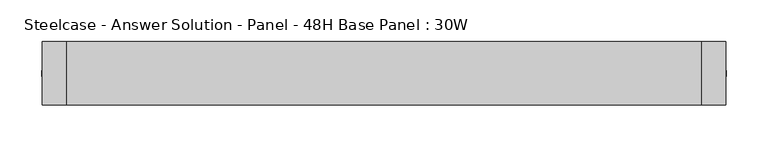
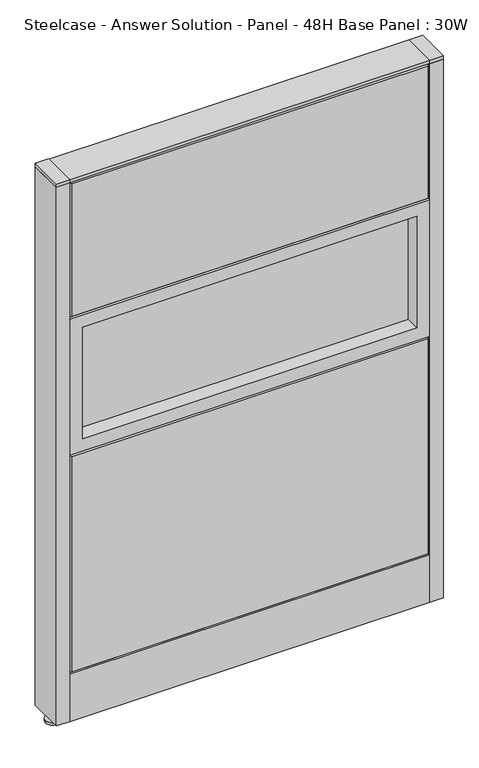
"""IFC4 building model written with IfcOpenShell, lengths in millimetres: furniture geometry, Steelcase - Answer Solution - Panel - 48H Base Panel : 30W."""

from ifc_helpers import new_model, si_unit, point, frame, frame_2d, origin, place, context, project, spatial, polyline, circle_curve, trimmed, segment, composite_curve, outline, extrude, faceted_brep, source, transform, mapped, element, save


def steelcase_answer_solution_panel_48h_base_panel_30w_dd1724f2(model_context):
    return source(origin(), model_context, "Body", "SolidModel", [
        extrude(outline(composite_curve([segment(trimmed(circle_curve(frame_2d((395.224, 0.0320214)), 5.08), [point((400.304, 0.0320214))], [point((390.144, 0.0320214))], False, "CARTESIAN"), True, "CONTINUOUS"), segment(trimmed(circle_curve(frame_2d((395.224, 0.0320214)), 5.08), [point((390.144, 0.0320214))], [point((400.304, 0.0320214))], False, "CARTESIAN"), True, "CONTINUOUS")], self_intersect=False)), frame((0.0, 0.0, 5.0799671), z_axis=(0.0, 0.0, 1.0), x_axis=(1.0, 0.0, 0.0)), (0.0, 0.0, 1.0), 10.414),
        extrude(outline(composite_curve([segment(trimmed(circle_curve(frame_2d((395.224, 0.0320214)), 15.24), [point((410.464, 0.0320214))], [point((379.984, 0.0320214))], False, "CARTESIAN"), True, "CONTINUOUS"), segment(trimmed(circle_curve(frame_2d((395.224, 0.0320214)), 15.24), [point((379.984, 0.0320214))], [point((410.464, 0.0320214))], False, "CARTESIAN"), True, "CONTINUOUS")], self_intersect=False)), frame((0.0, 0.0, -3.29e-05), z_axis=(0.0, 0.0, 1.0), x_axis=(1.0, 0.0, 0.0)), (0.0, 0.0, 1.0), 5.08),
        extrude(outline(polyline([(409.575, 38.1320408), (409.575, -38.0679592), (381.0, -38.0679592), (381.0, 38.1320408), (409.575, 38.1320408)])), frame((0.0, 0.0, 1218.2348), z_axis=(0.0, 0.0, 1.0), x_axis=(1.0, 0.0, 0.0)), (0.0, 0.0, 1.0), 7.3151671),
        extrude(outline(polyline([(409.575, 38.1320408), (409.575, -38.0679592), (381.0, -38.0679592), (381.0, 38.1320408), (409.575, 38.1320408)])), frame((0.0, 0.0, 15.4939671), z_axis=(0.0, 0.0, 1.0), x_axis=(1.0, 0.0, 0.0)), (0.0, 0.0, 1.0), 1202.7408329),
        extrude(outline(composite_curve([segment(trimmed(circle_curve(frame_2d((-395.224, 0.0320214)), 5.08), [point((-400.304, 0.0320214))], [point((-390.144, 0.0320214))], False, "CARTESIAN"), True, "CONTINUOUS"), segment(trimmed(circle_curve(frame_2d((-395.224, 0.0320214)), 5.08), [point((-390.144, 0.0320214))], [point((-400.304, 0.0320214))], False, "CARTESIAN"), True, "CONTINUOUS")], self_intersect=False)), frame((0.0, 0.0, 5.0799671), z_axis=(0.0, 0.0, 1.0), x_axis=(1.0, 0.0, 0.0)), (0.0, 0.0, 1.0), 10.414),
        extrude(outline(composite_curve([segment(trimmed(circle_curve(frame_2d((-395.224, 0.0320214)), 15.24), [point((-410.464, 0.0320214))], [point((-379.984, 0.0320214))], False, "CARTESIAN"), True, "CONTINUOUS"), segment(trimmed(circle_curve(frame_2d((-395.224, 0.0320214)), 15.24), [point((-379.984, 0.0320214))], [point((-410.464, 0.0320214))], False, "CARTESIAN"), True, "CONTINUOUS")], self_intersect=False)), frame((0.0, 0.0, -3.29e-05), z_axis=(0.0, 0.0, 1.0), x_axis=(1.0, 0.0, 0.0)), (0.0, 0.0, 1.0), 5.08),
        extrude(outline(polyline([(-409.575, 38.1320408), (-381.0, 38.1320408), (-381.0, -38.0679592), (-409.575, -38.0679592), (-409.575, 38.1320408)])), frame((0.0, 0.0, 1218.2348), z_axis=(0.0, 0.0, 1.0), x_axis=(1.0, 0.0, 0.0)), (0.0, 0.0, 1.0), 7.3151671),
        extrude(outline(polyline([(-409.575, 38.1320408), (-381.0, 38.1320408), (-381.0, -38.0679592), (-409.575, -38.0679592), (-409.575, 38.1320408)])), frame((0.0, 0.0, 15.4939671), z_axis=(0.0, 0.0, 1.0), x_axis=(1.0, 0.0, 0.0)), (0.0, 0.0, 1.0), 1202.7408329),
        extrude(outline(polyline([(-353.06, 6.346049), (353.06, 6.346049), (353.06, -6.353951), (-353.06, -6.353951), (-353.06, 6.346049)])), frame((0.0, 0.0, 637.54), z_axis=(0.0, 0.0, 1.0), x_axis=(1.0, 0.0, 0.0)), (0.0, 0.0, 1.0), 248.92),
        extrude(outline(polyline([(914.4, -381.0), (609.6, -381.0), (609.6, 381.0), (914.4, 381.0), (914.4, -381.0)]), holes=[polyline([(886.46, -353.06), (886.46, 353.06), (637.54, 353.06), (637.54, -353.06), (886.46, -353.06)])]), frame((0.0, -38.103951, 0.0), z_axis=(0.0, 1.0, 0.0), x_axis=(0.0, 0.0, 1.0)), (0.0, 0.0, 1.0), 76.2),
        faceted_brep([(-376.174, 38.1635011, 1214.374), (376.174, 38.1635011, 1214.374), (376.174, 38.1635011, 919.226), (-376.174, 38.1635011, 919.226), (-381.0, 33.3375011, 1219.2), (-381.0, 33.3375011, 914.4), (381.0, 33.3375011, 914.4), (381.0, 33.3375011, 1219.2)], [[[0, 1, 2, 3]], [[4, 5, 6, 7]], [[4, 7, 1, 0]], [[7, 6, 2, 1]], [[6, 5, 3, 2]], [[5, 4, 0, 3]]]),
        faceted_brep([(-376.174, 38.1635011, 604.774), (376.174, 38.1635011, 604.774), (376.174, 38.1635011, 125.476), (-376.174, 38.1635011, 125.476), (-381.0, 33.3375011, 609.6), (-381.0, 33.3375011, 120.65), (381.0, 33.3375011, 120.65), (381.0, 33.3375011, 609.6)], [[[0, 1, 2, 3]], [[4, 5, 6, 7]], [[4, 7, 1, 0]], [[7, 6, 2, 1]], [[6, 5, 3, 2]], [[5, 4, 0, 3]]]),
        extrude(outline(polyline([(353.06, -6.346049), (-353.06, -6.346049), (-353.06, 6.353951), (353.06, 6.353951), (353.06, -6.346049)])), frame((0.0, 0.0, 637.54), z_axis=(0.0, 0.0, 1.0), x_axis=(1.0, 0.0, 0.0)), (0.0, 0.0, 1.0), 248.92),
        extrude(outline(polyline([(914.4, 381.0), (914.4, -381.0), (609.6, -381.0), (609.6, 381.0), (914.4, 381.0)]), holes=[polyline([(886.46, 353.06), (637.54, 353.06), (637.54, -353.06), (886.46, -353.06), (886.46, 353.06)])]), frame((0.0, -38.096049, 0.0), z_axis=(0.0, 1.0, 0.0), x_axis=(0.0, 0.0, 1.0)), (0.0, 0.0, 1.0), 76.2),
        faceted_brep([(376.174, -38.1635011, 1214.374), (-376.174, -38.1635011, 1214.374), (-376.174, -38.1635011, 919.226), (376.174, -38.1635011, 919.226), (381.0, -33.3375011, 1219.2), (381.0, -33.3375011, 914.4), (-381.0, -33.3375011, 914.4), (-381.0, -33.3375011, 1219.2)], [[[0, 1, 2, 3]], [[4, 5, 6, 7]], [[4, 7, 1, 0]], [[7, 6, 2, 1]], [[6, 5, 3, 2]], [[5, 4, 0, 3]]]),
        faceted_brep([(376.174, -38.1635011, 604.774), (-376.174, -38.1635011, 604.774), (-376.174, -38.1635011, 125.476), (376.174, -38.1635011, 125.476), (381.0, -33.3375011, 609.6), (381.0, -33.3375011, 120.65), (-381.0, -33.3375011, 120.65), (-381.0, -33.3375011, 609.6)], [[[0, 1, 2, 3]], [[4, 5, 6, 7]], [[4, 7, 1, 0]], [[7, 6, 2, 1]], [[6, 5, 3, 2]], [[5, 4, 0, 3]]]),
        extrude(outline(polyline([(381.0, 38.1000194), (381.0, -38.1000194), (-381.0, -38.1000194), (-381.0, 38.1000194), (381.0, 38.1000194)])), frame((0.0, 0.0, 1219.2), z_axis=(0.0, 0.0, 1.0), x_axis=(1.0, 0.0, 0.0)), (0.0, 0.0, 1.0), 6.35),
        extrude(outline(polyline([(25.4000011, 119.8575157), (25.4000011, 120.65), (38.1000194, 120.65), (38.1000194, 15.494), (37.3075215, 15.494), (37.3075215, 119.8575157), (25.4000011, 119.8575157)])), frame((-381.0, 0.0, 0.0), z_axis=(1.0, 0.0, 0.0), x_axis=(0.0, 1.0, 0.0)), (0.0, 0.0, 1.0), 762.0),
        extrude(outline(polyline([(-25.4000011, 119.8575157), (-37.3075215, 119.8575157), (-37.3075215, 15.494), (-38.1000194, 15.494), (-38.1000194, 120.65), (-25.4000011, 120.65), (-25.4000011, 119.8575157)])), frame((-381.0, 0.0, 0.0), z_axis=(1.0, 0.0, 0.0), x_axis=(0.0, 1.0, 0.0)), (0.0, 0.0, 1.0), 762.0),
    ])


if __name__ == "__main__":
    model = new_model("IFC4")
    model_context = context("Model", 3, world=origin())
    ifc_project = project(units=[si_unit("LENGTHUNIT", "METRE", prefix="MILLI")], contexts=[model_context])
    site = spatial("IfcSite", under=ifc_project)
    building = spatial("IfcBuilding", under=site)
    placement = place(None, origin())
    steelcase_answer_solution_panel_48h_base_panel_30w_shape = steelcase_answer_solution_panel_48h_base_panel_30w_dd1724f2(model_context)
    element("IfcFurniture", 1, ObjectType="Steelcase - Answer Solution - Panel - 48H Base Panel : 30W", at=placement, inside=building, context=model_context, shape_type="MappedRepresentation", body=[
        mapped(steelcase_answer_solution_panel_48h_base_panel_30w_shape, transform((0.0, 0.0, 0.0), x_axis=(1.0, 0.0, 0.0), y_axis=(0.0, 1.0, 0.0), z_axis=(0.0, 0.0, 1.0))),
    ])
    save(model, "model.ifc")
